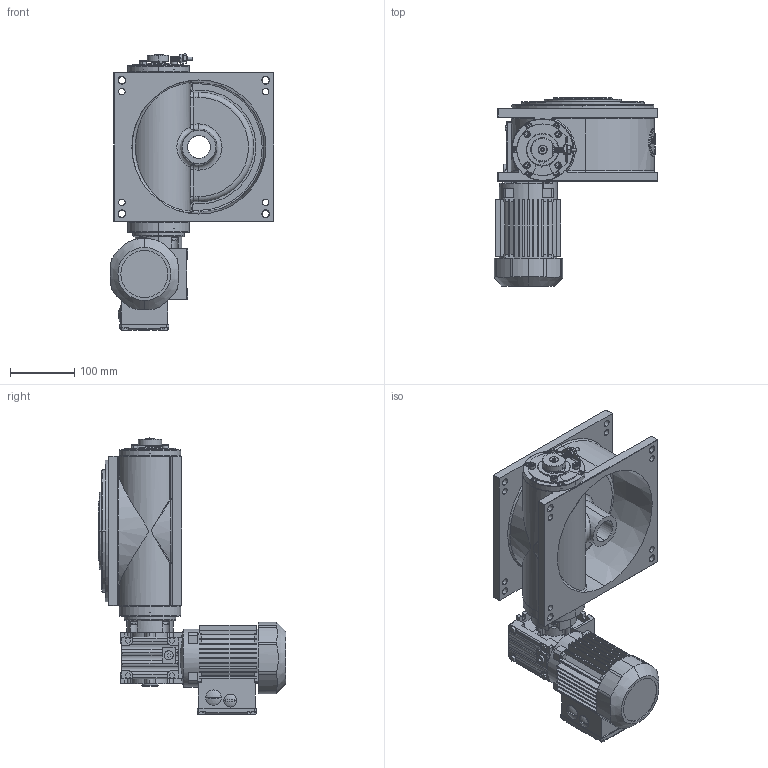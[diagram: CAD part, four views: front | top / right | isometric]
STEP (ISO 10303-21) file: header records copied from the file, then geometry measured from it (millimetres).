
FILE_DESCRIPTION (( 'STEP AP214' ), '1' );
FILE_NAME ('M190_SEW_WAF10DR2S56M4_E2.STEP', '2021-01-25T15:23:53', ( '' ), ( '' ), 'SwSTEP 2.0', 'SolidWorks 2020', '' );
FILE_SCHEMA (( 'AUTOMOTIVE_DESIGN' ));
Length unit declared in the file: millimetre
Products named in the file (1): M190_SEW_WAF10DR2S56M4_E2
Bounding box: 253.44 x 291.6 x 428.44 mm (x, y, z)
Surface area: 548683.4 mm2 (no closed solid volume)
Topology: 0 solids, 53 shells, 1414 faces, 4364 edges, 2901 vertices
Faces by surface type: plane 694, cylinder 421, cone 140, bspline 78, torus 67, sphere 14
Entity records: 73249 total; most frequent: CARTESIAN_POINT 19402, DIRECTION 7928, ORIENTED_EDGE 7575, EDGE_CURVE 4343, VERTEX_POINT 2901, AXIS2_PLACEMENT_3D 2720, VECTOR 2488, LINE 2488
